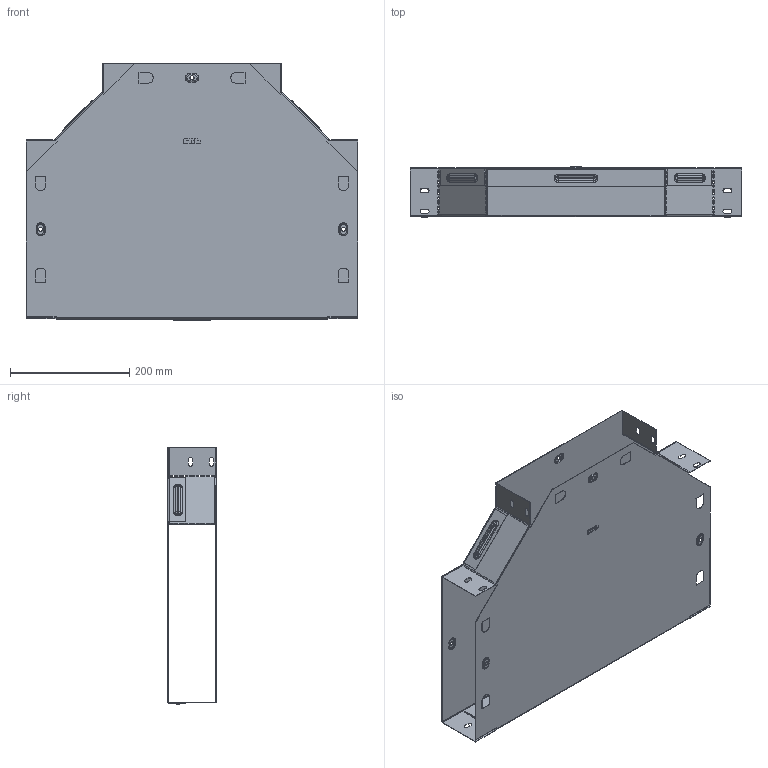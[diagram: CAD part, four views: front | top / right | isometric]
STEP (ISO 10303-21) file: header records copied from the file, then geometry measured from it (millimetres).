
FILE_DESCRIPTION (( 'STEP AP214' ), '1' );
FILE_NAME ('t8030008_捘.STEP', '2019-06-10T08:11:51', ( '砐錪賧瘔蠈錪 Windows' ), ( '' ), 'SwSTEP 2.0', 'SolidWorks 2018', '' );
FILE_SCHEMA (( 'AUTOMOTIVE_DESIGN' ));
Length unit declared in the file: millimetre
Products named in the file (1): t8030008_捘
Bounding box: 556.4 x 83.8 x 431 mm (x, y, z)
Volume: 407214.4 mm3; surface area: 1023423.6 mm2
Topology: 2 solids, 2 shells, 742 faces, 2118 edges, 1376 vertices
Faces by surface type: plane 412, cylinder 216, torus 96, bspline 18
Entity records: 25307 total; most frequent: CARTESIAN_POINT 5317, ORIENTED_EDGE 4236, DIRECTION 4108, EDGE_CURVE 2118, VECTOR 1506, LINE 1506, VERTEX_POINT 1376, AXIS2_PLACEMENT_3D 1301
